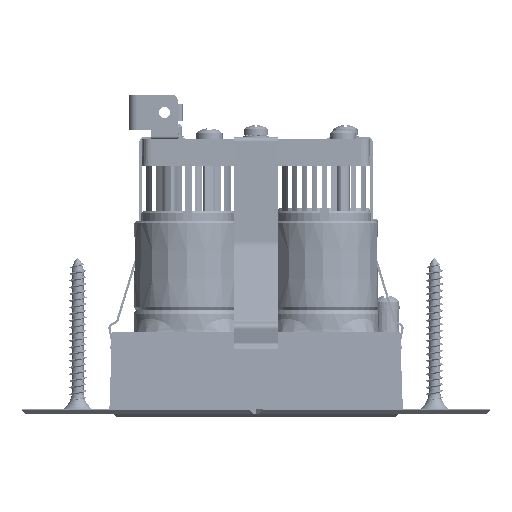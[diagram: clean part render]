
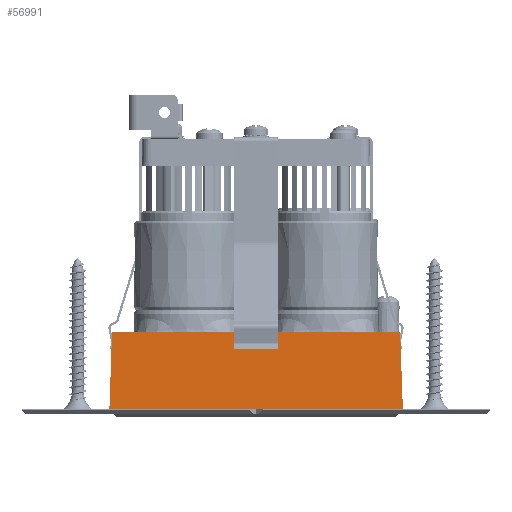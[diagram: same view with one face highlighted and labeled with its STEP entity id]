
A CAD part, left-side view. The second image highlights one B-rep face of the part: STEP entity #56991.
In plain terms, the highlighted planar face has unit normal (-0.999, 0, 0.035).
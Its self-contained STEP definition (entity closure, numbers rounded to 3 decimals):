
#49999=DIRECTION('',(0.,-1.,0.));
#50000=VECTOR('',#49999,64.63);
#50001=CARTESIAN_POINT('',(82.685,77.315,19.206));
#50002=LINE('',#50001,#50000);
#50721=DIRECTION('',(-0.035,0.035,-0.999));
#50722=VECTOR('',#50721,17.428);
#50723=CARTESIAN_POINT('',(82.685,77.315,19.206));
#50724=LINE('',#50723,#50722);
#50729=DIRECTION('',(-0.035,-0.035,-0.999));
#50730=VECTOR('',#50729,17.428);
#50731=CARTESIAN_POINT('',(82.685,12.685,19.206));
#50732=LINE('',#50731,#50730);
#50745=DIRECTION('',(0.,1.,0.));
#50746=VECTOR('',#50745,65.846);
#50747=CARTESIAN_POINT('',(82.077,12.077,1.8));
#50748=LINE('',#50747,#50746);
#53938=CARTESIAN_POINT('',(82.077,12.077,1.8));
#53939=VERTEX_POINT('',#53938);
#53940=CARTESIAN_POINT('',(82.077,77.923,1.8));
#53941=VERTEX_POINT('',#53940);
#53946=CARTESIAN_POINT('',(82.685,12.685,19.206));
#53947=VERTEX_POINT('',#53946);
#53948=CARTESIAN_POINT('',(82.685,77.315,19.206));
#53949=VERTEX_POINT('',#53948);
#56978=CARTESIAN_POINT('',(82.685,14.35,19.206));
#56979=DIRECTION('',(0.999,0.,-0.035));
#56980=DIRECTION('',(-0.035,0.,-0.999));
#56981=AXIS2_PLACEMENT_3D('',#56978,#56979,#56980);
#56982=PLANE('',#56981);
#56983=ORIENTED_EDGE('',*,*,#55209,.T.);
#56985=ORIENTED_EDGE('',*,*,#56984,.T.);
#56987=ORIENTED_EDGE('',*,*,#56986,.T.);
#56988=ORIENTED_EDGE('',*,*,#56970,.F.);
#56989=EDGE_LOOP('',(#56983,#56985,#56987,#56988));
#56990=FACE_OUTER_BOUND('',#56989,.F.);
#56991=ADVANCED_FACE('',(#56990),#56982,.F.);
#55209=EDGE_CURVE('',#53949,#53947,#50002,.T.);
#56970=EDGE_CURVE('',#53949,#53941,#50724,.T.);
#56984=EDGE_CURVE('',#53947,#53939,#50732,.T.);
#56986=EDGE_CURVE('',#53939,#53941,#50748,.T.);
